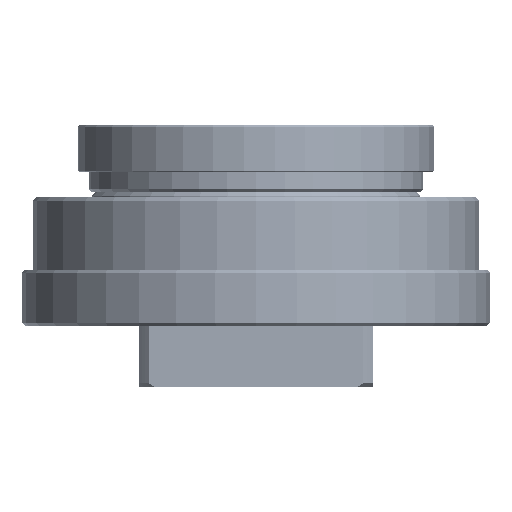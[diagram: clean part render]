
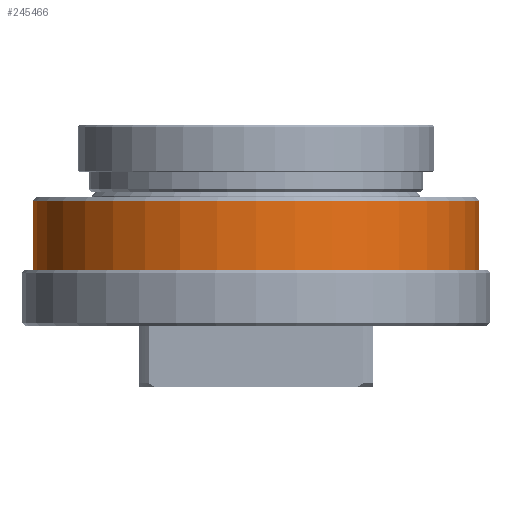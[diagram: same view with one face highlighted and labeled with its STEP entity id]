
A CAD part, front view. The second image highlights one B-rep face of the part: STEP entity #245466.
In plain terms, the highlighted cylindrical face has radius 40 mm (diameter 80 mm), a partial arc.
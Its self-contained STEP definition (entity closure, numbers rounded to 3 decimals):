
#3115 = LINE ( 'NONE', #184127, #192298 ) ;
#3644 = AXIS2_PLACEMENT_3D ( 'NONE', #130785, #190285, #168705 ) ;
#5041 = LINE ( 'NONE', #44213, #88298 ) ;
#30140 = CARTESIAN_POINT ( 'NONE',  ( 0., 15.4, -40. ) ) ;
#41614 = VERTEX_POINT ( 'NONE', #30140 ) ;
#43583 = DIRECTION ( 'NONE',  ( 0., 0., 1. ) ) ;
#44213 = CARTESIAN_POINT ( 'NONE',  ( 0., 73.309, -40. ) ) ;
#71010 = CARTESIAN_POINT ( 'NONE',  ( 0., 0.6, 40. ) ) ;
#71048 = ORIENTED_EDGE ( 'NONE', *, *, #157741, .T. ) ;
#82093 = DIRECTION ( 'NONE',  ( 0., -1., 0. ) ) ;
#86088 = DIRECTION ( 'NONE',  ( 0., 0., -1. ) ) ;
#88298 = VECTOR ( 'NONE', #169810, 1000. ) ;
#89817 = EDGE_CURVE ( 'NONE', #128741, #41614, #5041, .T. ) ;
#102354 = CARTESIAN_POINT ( 'NONE',  ( 0., 15.4, 0. ) ) ;
#115092 = CIRCLE ( 'NONE', #265999, 40. ) ;
#125046 = VERTEX_POINT ( 'NONE', #234971 ) ;
#126805 = FACE_OUTER_BOUND ( 'NONE', #142528, .T. ) ;
#128741 = VERTEX_POINT ( 'NONE', #156173 ) ;
#130785 = CARTESIAN_POINT ( 'NONE',  ( 0., 73.309, 0. ) ) ;
#142528 = EDGE_LOOP ( 'NONE', ( #246499, #213425, #71048, #205594 ) ) ;
#146241 = DIRECTION ( 'NONE',  ( 0., 1., 0. ) ) ;
#149042 = CIRCLE ( 'NONE', #183506, 40. ) ;
#156026 = EDGE_CURVE ( 'NONE', #125046, #41614, #149042, .T. ) ;
#156173 = CARTESIAN_POINT ( 'NONE',  ( 0., 0.6, -40. ) ) ;
#157741 = EDGE_CURVE ( 'NONE', #180247, #125046, #3115, .T. ) ;
#168705 = DIRECTION ( 'NONE',  ( 0., 0., 1. ) ) ;
#169810 = DIRECTION ( 'NONE',  ( 0., 1., 0. ) ) ;
#170012 = CYLINDRICAL_SURFACE ( 'NONE', #3644, 40. ) ;
#170500 = CARTESIAN_POINT ( 'NONE',  ( 0., 0.6, 0. ) ) ;
#180247 = VERTEX_POINT ( 'NONE', #71010 ) ;
#182785 = DIRECTION ( 'NONE',  ( 0., 1., 0. ) ) ;
#183506 = AXIS2_PLACEMENT_3D ( 'NONE', #102354, #82093, #86088 ) ;
#184127 = CARTESIAN_POINT ( 'NONE',  ( 0., 73.309, 40. ) ) ;
#190285 = DIRECTION ( 'NONE',  ( 0., 1., 0. ) ) ;
#192298 = VECTOR ( 'NONE', #182785, 1000. ) ;
#205594 = ORIENTED_EDGE ( 'NONE', *, *, #156026, .T. ) ;
#213425 = ORIENTED_EDGE ( 'NONE', *, *, #241345, .T. ) ;
#234971 = CARTESIAN_POINT ( 'NONE',  ( 0., 15.4, 40. ) ) ;
#241345 = EDGE_CURVE ( 'NONE', #128741, #180247, #115092, .T. ) ;
#245466 = ADVANCED_FACE ( 'NONE', ( #126805 ), #170012, .T. ) ;
#246499 = ORIENTED_EDGE ( 'NONE', *, *, #89817, .F. ) ;
#265999 = AXIS2_PLACEMENT_3D ( 'NONE', #170500, #146241, #43583 ) ;
